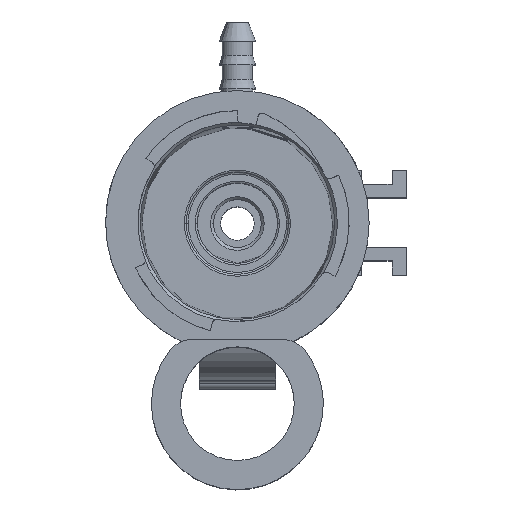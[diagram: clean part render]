
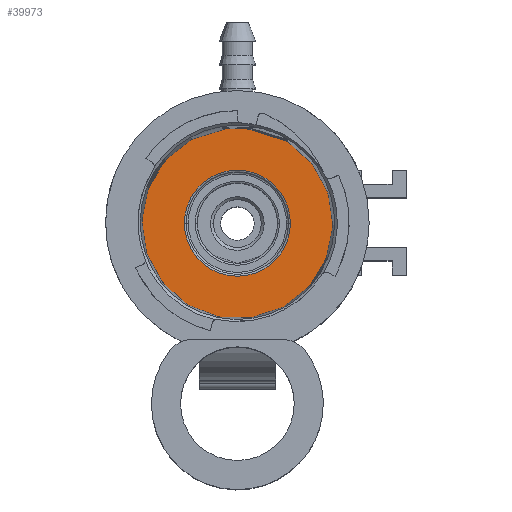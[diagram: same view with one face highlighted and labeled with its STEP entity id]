
A CAD part, top view. The second image highlights one B-rep face of the part: STEP entity #39973.
In plain terms, the highlighted planar face has unit normal (0, 0, 1).
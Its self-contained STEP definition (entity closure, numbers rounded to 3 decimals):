
#32942=AXIS2_PLACEMENT_3D('Circle Axis2P3D',#32940,#32941,$) ;
#32949=AXIS2_PLACEMENT_3D('Circle Axis2P3D',#32947,#32948,$) ;
#32986=AXIS2_PLACEMENT_3D('Circle Axis2P3D',#32984,#32985,$) ;
#32993=AXIS2_PLACEMENT_3D('Circle Axis2P3D',#32991,#32992,$) ;
#39947=AXIS2_PLACEMENT_3D('Plane Axis2P3D',#39944,#39945,#39946) ;
#39957=AXIS2_PLACEMENT_3D('Circle Axis2P3D',#39955,#39956,$) ;
#39966=AXIS2_PLACEMENT_3D('Circle Axis2P3D',#39964,#39965,$) ;
#32937=CARTESIAN_POINT('Vertex',(4.794,-8.776,2.)) ;
#32940=CARTESIAN_POINT('Axis2P3D Location',(0.,0.,2.)) ;
#32944=CARTESIAN_POINT('Vertex',(-10.,0.,2.)) ;
#32947=CARTESIAN_POINT('Axis2P3D Location',(0.,0.,2.)) ;
#32951=CARTESIAN_POINT('Vertex',(-4.794,8.776,2.)) ;
#32984=CARTESIAN_POINT('Axis2P3D Location',(0.,0.,2.)) ;
#32988=CARTESIAN_POINT('Vertex',(10.,0.,2.)) ;
#32991=CARTESIAN_POINT('Axis2P3D Location',(0.,0.,2.)) ;
#39944=CARTESIAN_POINT('Axis2P3D Location',(0.,0.,2.)) ;
#39955=CARTESIAN_POINT('Axis2P3D Location',(0.,0.,2.)) ;
#39959=CARTESIAN_POINT('Vertex',(-5.55,0.,2.)) ;
#39961=CARTESIAN_POINT('Vertex',(5.55,0.,2.)) ;
#39964=CARTESIAN_POINT('Axis2P3D Location',(0.,0.,2.)) ;
#32941=DIRECTION('Axis2P3D Direction',(0.,0.,1.)) ;
#32948=DIRECTION('Axis2P3D Direction',(0.,0.,1.)) ;
#32985=DIRECTION('Axis2P3D Direction',(0.,0.,1.)) ;
#32992=DIRECTION('Axis2P3D Direction',(0.,0.,1.)) ;
#39945=DIRECTION('Axis2P3D Direction',(0.,0.,-1.)) ;
#39946=DIRECTION('Axis2P3D XDirection',(1.,0.,0.)) ;
#39956=DIRECTION('Axis2P3D Direction',(0.,0.,-1.)) ;
#39965=DIRECTION('Axis2P3D Direction',(0.,0.,-1.)) ;
#39950=ORIENTED_EDGE('',*,*,#32946,.F.) ;
#39951=ORIENTED_EDGE('',*,*,#32995,.F.) ;
#39952=ORIENTED_EDGE('',*,*,#32990,.F.) ;
#39953=ORIENTED_EDGE('',*,*,#32953,.F.) ;
#39970=ORIENTED_EDGE('',*,*,#39963,.F.) ;
#39971=ORIENTED_EDGE('',*,*,#39968,.F.) ;
#39972=FACE_BOUND('',#39969,.T.) ;
#39973=ADVANCED_FACE('\X2\96F64EF651E04F554F53\X0\',(#39954,#39972),#39948,.F.) ;
#32943=CIRCLE('generated circle',#32942,10.) ;
#32950=CIRCLE('generated circle',#32949,10.) ;
#32987=CIRCLE('generated circle',#32986,10.) ;
#32994=CIRCLE('generated circle',#32993,10.) ;
#39958=CIRCLE('generated circle',#39957,5.55) ;
#39967=CIRCLE('generated circle',#39966,5.55) ;
#32946=EDGE_CURVE('',#32938,#32945,#32943,.F.) ;
#32953=EDGE_CURVE('',#32945,#32952,#32950,.F.) ;
#32990=EDGE_CURVE('',#32952,#32989,#32987,.F.) ;
#32995=EDGE_CURVE('',#32989,#32938,#32994,.F.) ;
#39963=EDGE_CURVE('',#39960,#39962,#39958,.F.) ;
#39968=EDGE_CURVE('',#39962,#39960,#39967,.F.) ;
#39949=EDGE_LOOP('',(#39950,#39951,#39952,#39953)) ;
#39969=EDGE_LOOP('',(#39970,#39971)) ;
#39954=FACE_OUTER_BOUND('',#39949,.T.) ;
#39948=PLANE('Plane',#39947) ;
#32938=VERTEX_POINT('',#32937) ;
#32945=VERTEX_POINT('',#32944) ;
#32952=VERTEX_POINT('',#32951) ;
#32989=VERTEX_POINT('',#32988) ;
#39960=VERTEX_POINT('',#39959) ;
#39962=VERTEX_POINT('',#39961) ;
